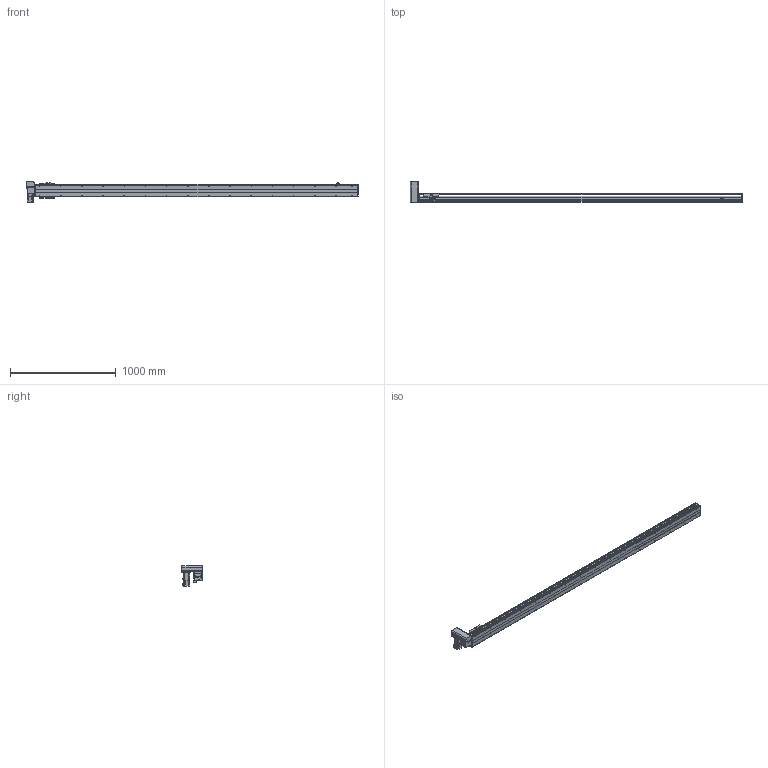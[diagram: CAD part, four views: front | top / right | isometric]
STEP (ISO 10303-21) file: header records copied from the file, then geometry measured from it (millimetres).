
FILE_DESCRIPTION(/* description */ ('STEP AP214'),/* implementation_level */ '2;1');
FILE_NAME(/* name */ 'PBS120-P40-S2750-RU-T40-C1-N(0)',/* time_stamp */ '2022-06-06T02:51:55+02:00',/* author */ ('License CC BY-ND 4.0'),/* organization */ ('CADENAS'),/* preprocessor_version */ 'ST-DEVELOPER v18.102',/* originating_system */ 'PARTsolutions',/* authorisation */ ' ');
FILE_SCHEMA (('AUTOMOTIVE_DESIGN {1 0 10303 214 3 1 1}'));
Length unit declared in the file: millimetre
Products named in the file (7): PBS120-P40-S2750-RU-T40-C1-N(0); PBS120_sensor; PBS120_plant; PBS120_sliser; T40-p1; PBS120T-RU_motors; PBS120-S2750()_body
Assembly tree (8 placements, depth 2):
  PBS120-P40-S2750-RU-T40-C1-N(0)
    PBS120_sensor  x3
    PBS120_plant
    PBS120_sliser
    T40-p1
    PBS120T-RU_motors
    PBS120-S2750()_body
Bounding box: 3136 x 198 x 189.7 mm (x, y, z)
Volume: 11657461.3 mm3; surface area: 2420523.8 mm2
Topology: 8 solids, 8 shells, 876 faces, 2236 edges, 1435 vertices
Faces by surface type: plane 565, cylinder 245, cone 64, torus 2
Full cylindrical faces by diameter (mm): 2.459 x6, 3.242 x4, 4 x2, 4.134 x4, 4.5 x10, 4.917 x36, 5.5 x11, 6 x2, 6.6 x1, 7 x2, 8.5 x4, 9 x4, 12 x1, 14 x1, 30 x2, 40 x1, 50 x2
Entity records: 22554 total; most frequent: DIRECTION 3932, CARTESIAN_POINT 3821, ORIENTED_EDGE 3598, EDGE_CURVE 1799, AXIS2_PLACEMENT_3D 1352, VERTEX_POINT 1241, LINE 1228, VECTOR 1228
